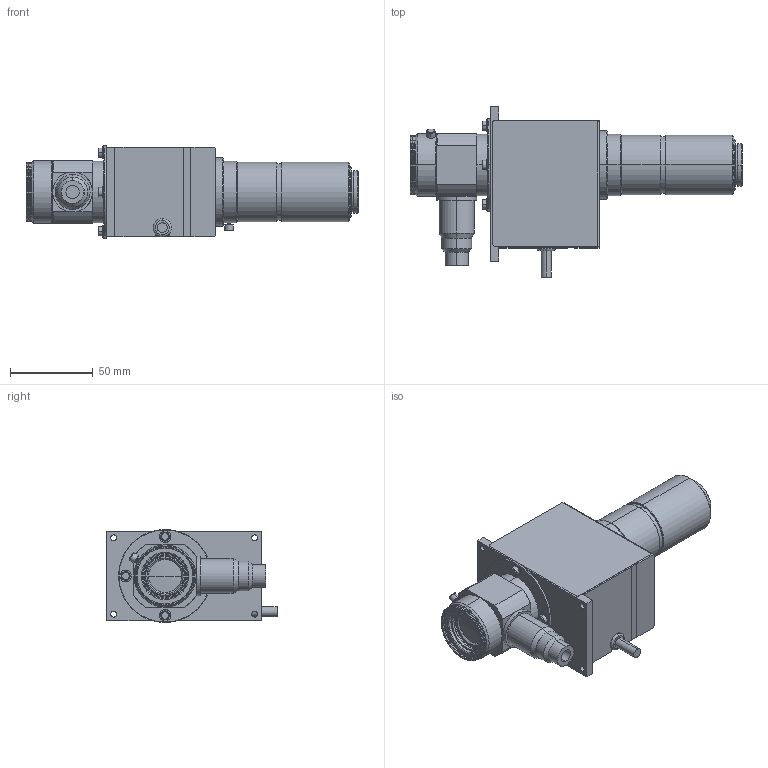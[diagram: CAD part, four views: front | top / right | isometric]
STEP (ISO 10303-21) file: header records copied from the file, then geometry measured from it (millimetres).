
FILE_DESCRIPTION (( 'STEP AP203' ), '1' );
FILE_NAME ('VSZ-0745CO-MR.STEP', '2015-05-25T04:44:15', ( '' ), ( '' ), 'SwSTEP 2.0', 'SolidWorks 2015', '' );
FILE_SCHEMA (( 'CONFIG_CONTROL_DESIGN' ));
Length unit declared in the file: millimetre
Products named in the file (1): VSZ-0745CO-MR
Bounding box: 200.07 x 102.5 x 56 mm (x, y, z)
Volume: 466597.8 mm3; surface area: 112398.8 mm2
Topology: 5 solids, 5 shells, 455 faces, 968 edges, 586 vertices
Faces by surface type: cone 152, cylinder 151, plane 136, torus 12, sphere 4
Entity records: 12399 total; most frequent: DIRECTION 2356, CARTESIAN_POINT 2122, ORIENTED_EDGE 1936, EDGE_CURVE 968, AXIS2_PLACEMENT_3D 952, VERTEX_POINT 586, EDGE_LOOP 530, CIRCLE 496
